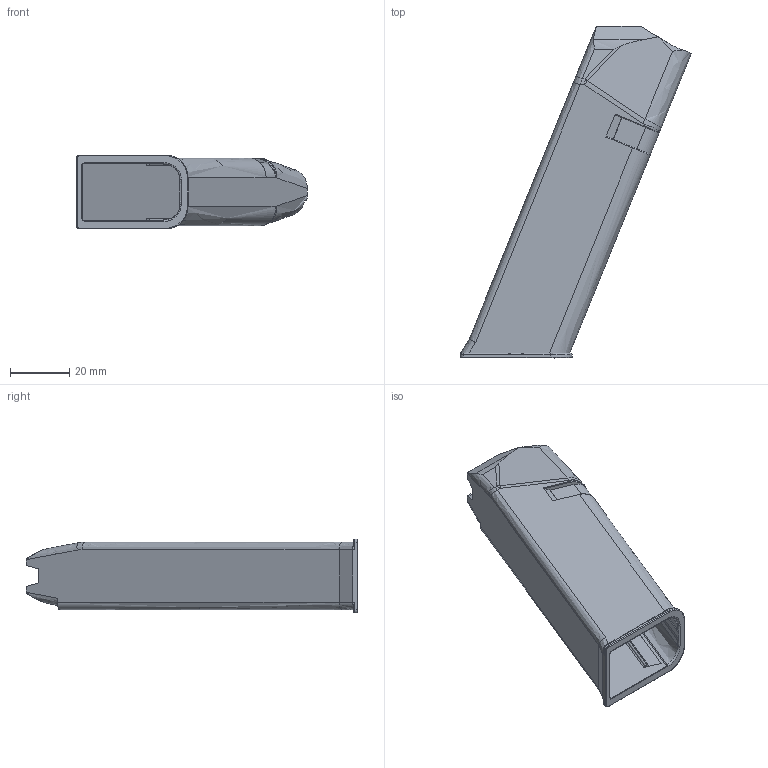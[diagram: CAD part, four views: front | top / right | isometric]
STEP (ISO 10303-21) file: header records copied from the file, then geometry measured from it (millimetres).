
FILE_DESCRIPTION(/* description */ (''),/* implementation_level */ '2;1');
FILE_NAME(/* name */ 'C:\Users\johne\Desktop\Menendez Mag 17\STEP\Menendez Mag Body V1.61.stp',/* time_stamp */ '2019-06-27T23:09:29-05:00',/* author */ ('johne'),/* organization */ (''),/* preprocessor_version */ 'ST-DEVELOPER v16.13',/* originating_system */ 'Autodesk Inventor 2018',/* authorisation */ '');
FILE_SCHEMA (('AUTOMOTIVE_DESIGN { 1 0 10303 214 3 1 1 }'));
Length unit declared in the file: inch
Products named in the file (1): Menendez Mag Body V1.61
Bounding box: 77.74 x 111.88 x 24.87 mm (x, y, z)
Volume: 20184.3 mm3; surface area: 23889 mm2
Topology: 1 solids, 5 shells, 400 faces, 1122 edges, 791 vertices
Faces by surface type: plane 228, bspline 133, cylinder 37, cone 2
Entity records: 15400 total; most frequent: CARTESIAN_POINT 5500, ORIENTED_EDGE 2110, DIRECTION 1777, EDGE_CURVE 1054, LINE 673, VECTOR 673, VERTEX_POINT 663, AXIS2_PLACEMENT_3D 552
